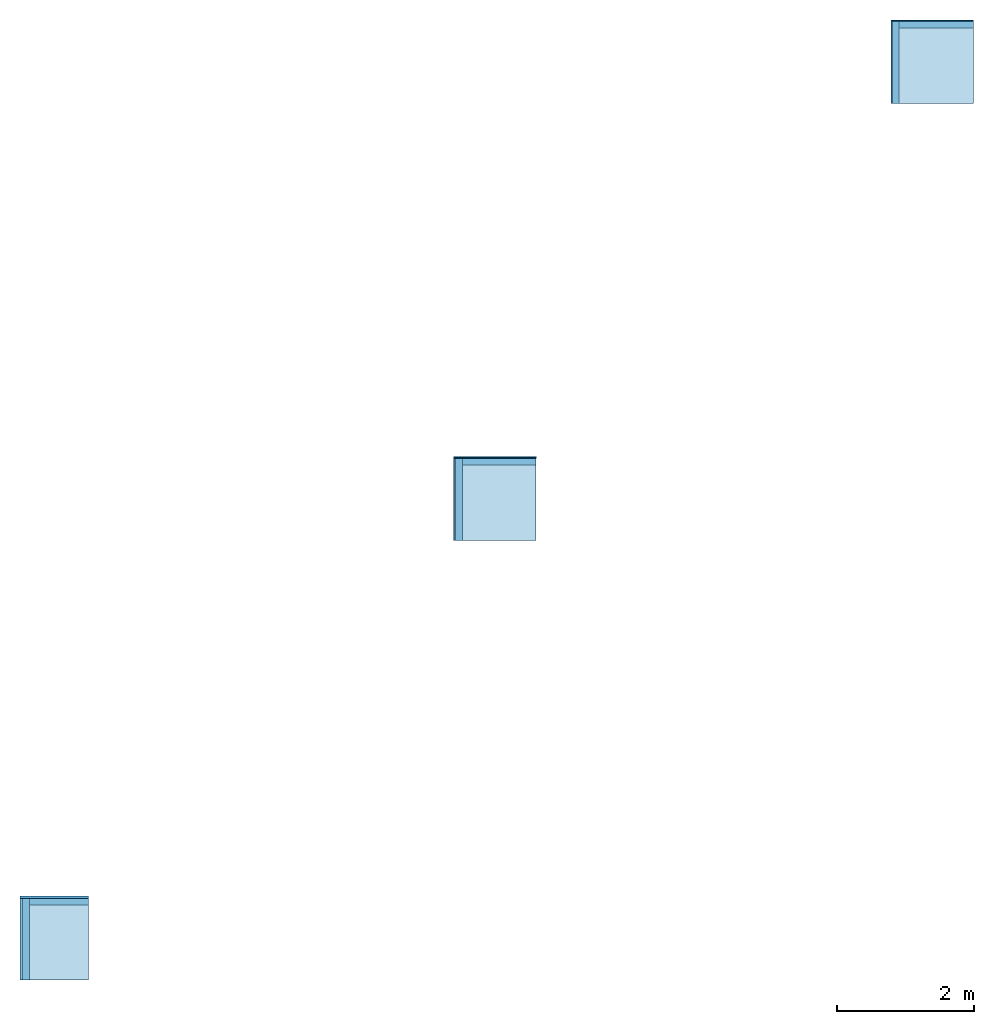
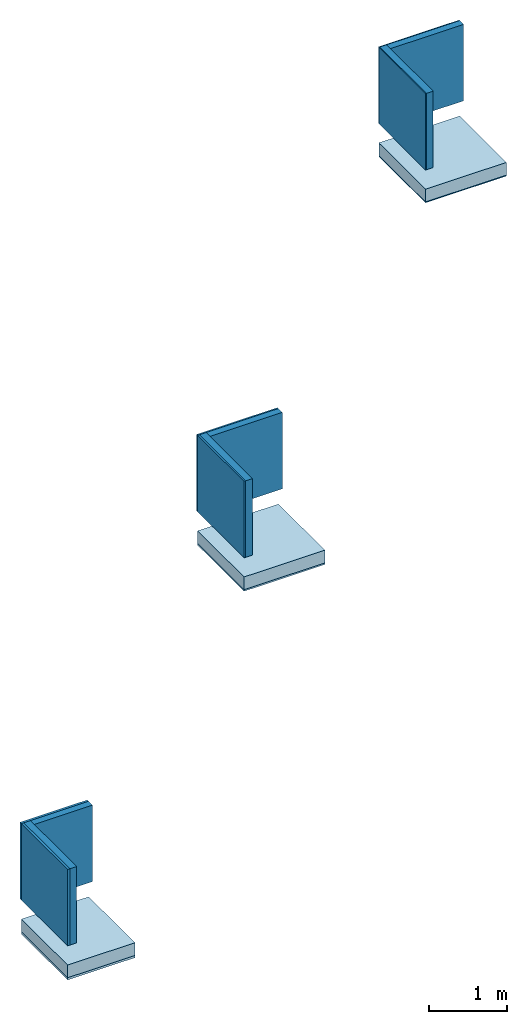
# One storey: 12 walls, 6 slabs.
"""IFC2X3 building model written with IfcOpenShell, lengths in millimetres."""

from ifc_helpers import new_model, entity, si_unit, converted_unit, derived_unit, direction, frame, frame_2d, origin, origin_2d_with_axis, place, context, subcontext, project, spatial, rectangle, extrude, material, layer, layer_set, layer_usage, type_object, element, save


model = new_model("IFC2X3")

# Units and contexts
model_context = context("Model", 3, precision=0.01, world=origin(), true_north=direction((6.12303176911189e-17, 1.0)))
context_of_model = context(None, 3, precision=0.01, world=origin(), true_north=direction((6.12303176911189e-17, 1.0)))
body_context = subcontext(model_context, "Body", "Model", "MODEL_VIEW")
ifc_project = project(units=[si_unit("LENGTHUNIT", "METRE", prefix="MILLI"), si_unit("AREAUNIT", "SQUARE_METRE"), si_unit("VOLUMEUNIT", "CUBIC_METRE"), converted_unit("PLANEANGLEUNIT", "DEGREE", entity("IfcRatioMeasure", 0.0174532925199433), si_unit("PLANEANGLEUNIT", "RADIAN"), dimensions=[0, 0, 0, 0, 0, 0, 0]), si_unit("MASSUNIT", "GRAM", prefix="KILO"), derived_unit("MASSDENSITYUNIT", [(si_unit("MASSUNIT", "GRAM", prefix="KILO"), 1), (si_unit("LENGTHUNIT", "METRE"), -3)]), derived_unit("MOMENTOFINERTIAUNIT", [(si_unit("LENGTHUNIT", "METRE"), 4)]), si_unit("TIMEUNIT", "SECOND"), si_unit("FREQUENCYUNIT", "HERTZ"), si_unit("THERMODYNAMICTEMPERATUREUNIT", "DEGREE_CELSIUS"), derived_unit("THERMALTRANSMITTANCEUNIT", [(si_unit("MASSUNIT", "GRAM", prefix="KILO"), 1), (si_unit("THERMODYNAMICTEMPERATUREUNIT", "KELVIN"), -1), (si_unit("TIMEUNIT", "SECOND"), -3)]), derived_unit("VOLUMETRICFLOWRATEUNIT", [(si_unit("LENGTHUNIT", "METRE"), 3), (si_unit("TIMEUNIT", "SECOND"), -1)]), si_unit("ELECTRICCURRENTUNIT", "AMPERE"), si_unit("ELECTRICVOLTAGEUNIT", "VOLT"), si_unit("POWERUNIT", "WATT"), si_unit("FORCEUNIT", "NEWTON", prefix="KILO"), si_unit("ILLUMINANCEUNIT", "LUX"), si_unit("LUMINOUSFLUXUNIT", "LUMEN"), si_unit("LUMINOUSINTENSITYUNIT", "CANDELA"), derived_unit("USERDEFINED", [(si_unit("MASSUNIT", "GRAM", prefix="KILO"), -1), (si_unit("LENGTHUNIT", "METRE"), -2), (si_unit("TIMEUNIT", "SECOND"), 3), (si_unit("LUMINOUSFLUXUNIT", "LUMEN"), 1)]), derived_unit("LINEARVELOCITYUNIT", [(si_unit("LENGTHUNIT", "METRE"), 1), (si_unit("TIMEUNIT", "SECOND"), -1)]), si_unit("PRESSUREUNIT", "PASCAL"), derived_unit("USERDEFINED", [(si_unit("LENGTHUNIT", "METRE"), -2), (si_unit("MASSUNIT", "GRAM", prefix="KILO"), 1), (si_unit("TIMEUNIT", "SECOND"), -2)]), derived_unit("LINEARFORCEUNIT", [(si_unit("MASSUNIT", "GRAM", prefix="KILO"), 1), (si_unit("LENGTHUNIT", "METRE"), 1), (si_unit("TIMEUNIT", "SECOND"), -2), (si_unit("LENGTHUNIT", "METRE"), -1)]), derived_unit("PLANARFORCEUNIT", [(si_unit("MASSUNIT", "GRAM", prefix="KILO"), 1), (si_unit("LENGTHUNIT", "METRE"), 1), (si_unit("TIMEUNIT", "SECOND"), -2), (si_unit("LENGTHUNIT", "METRE"), -2)])], contexts=[model_context, context_of_model])

# Site, building, storey
site_placement = place(None, origin())
site = spatial("IfcSite", under=ifc_project, at=site_placement, Name="Default", CompositionType="ELEMENT")
building_placement = place(site_placement, origin())
building = spatial("IfcBuilding", under=site, at=building_placement, CompositionType="ELEMENT")
storey_placement = place(building_placement, origin())
storey = spatial("IfcBuildingStorey", under=building, at=storey_placement, Name="00 begane grond", CompositionType="ELEMENT", Elevation=-2.77069864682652e-11)

# Slabs
ifc_material_1 = material(Name="Heraklith A2 afbouwpaneel - Houtwollaag - 1200x600mm")
ifc_layer_1 = layer(ifc_material_1, 15.0)
ifc_layer_set_1 = layer_set([ifc_layer_1], Name="Floor:NLRS_23_FL_Heraklith A2  afbouwpaneel 15x1200x600mm")
ifc_layer_usage_1 = layer_usage(ifc_layer_set_1, "AXIS3", "POSITIVE", 0.0)
slab_type_1 = type_object("IfcSlabType", Name="Floor:NLRS_23_FL_Heraklith A2  afbouwpaneel 15x1200x600mm", PredefinedType="FLOOR", material=ifc_layer_set_1)
slab_1_placement = place(storey_placement, origin())
element("IfcSlab", 1, at=slab_1_placement, inside=storey, type_object=slab_type_1, material=ifc_layer_usage_1, Name="Floor:NLRS_23_FL_Heraklith A2  afbouwpaneel 15x1200x600mm", ObjectType="Floor:NLRS_23_FL_Heraklith A2  afbouwpaneel 15x1200x600mm", PredefinedType="FLOOR", context=body_context, shape_type="SweptSolid", body=[
    extrude(rectangle(XDim=1200.0, YDim=1200.0, at=frame_2d((2.1600499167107e-12, 2.1600499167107e-12), x_axis=(1.0, 0.0))), frame((13327.9220613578, 13327.9220613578, -500.0), z_axis=(0.0, 0.0, -1.0), x_axis=(0.0, 1.0, 0.0)), (0.0, 0.0, 1.0), 15.0),
])
ifc_layer_2 = layer(ifc_material_1, 25.0)
ifc_layer_set_2 = layer_set([ifc_layer_2], Name="Floor:NLRS_23_FL_Heraklith A2  afbouwpaneel 25x1200x600mm")
ifc_layer_usage_2 = layer_usage(ifc_layer_set_2, "AXIS3", "POSITIVE", 0.0)
slab_type_2 = type_object("IfcSlabType", Name="Floor:NLRS_23_FL_Heraklith A2  afbouwpaneel 25x1200x600mm", PredefinedType="FLOOR", material=ifc_layer_set_2)
slab_2_placement = place(storey_placement, origin())
element("IfcSlab", 2, at=slab_2_placement, inside=storey, type_object=slab_type_2, material=ifc_layer_usage_2, Name="Floor:NLRS_23_FL_Heraklith A2  afbouwpaneel 25x1200x600mm", ObjectType="Floor:NLRS_23_FL_Heraklith A2  afbouwpaneel 25x1200x600mm", PredefinedType="FLOOR", context=body_context, shape_type="SweptSolid", body=[
    extrude(rectangle(XDim=1195.0, YDim=1200.0, at=origin_2d_with_axis()), frame((6958.9610306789, 6961.46103067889, -500.0), z_axis=(0.0, 0.0, -1.0), x_axis=(0.0, 1.0, 0.0)), (0.0, 0.0, 1.0), 25.0),
])
ifc_material_2 = material(Name="Heraklith A2 afbouwpaneel - Houtwollaag - 1000x600mm")
ifc_layer_3 = layer(ifc_material_2, 35.0)
ifc_layer_set_3 = layer_set([ifc_layer_3], Name="Floor:NLRS_23_FL_Heraklith A2  afbouwpaneel 35x1000x600mm")
ifc_layer_usage_3 = layer_usage(ifc_layer_set_3, "AXIS3", "POSITIVE", 0.0)
slab_type_3 = type_object("IfcSlabType", Name="Floor:NLRS_23_FL_Heraklith A2  afbouwpaneel 35x1000x600mm", PredefinedType="FLOOR", material=ifc_layer_set_3)
slab_3_placement = place(storey_placement, origin())
element("IfcSlab", 3, at=slab_3_placement, inside=storey, type_object=slab_type_3, material=ifc_layer_usage_3, Name="Floor:NLRS_23_FL_Heraklith A2  afbouwpaneel 35x1000x600mm", ObjectType="Floor:NLRS_23_FL_Heraklith A2  afbouwpaneel 35x1000x600mm", PredefinedType="FLOOR", context=body_context, shape_type="SweptSolid", body=[
    extrude(rectangle(XDim=1190.0, YDim=1000.0, at=origin_2d_with_axis()), frame((542.142117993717, 557.075472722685, -500.0), z_axis=(0.0, 0.0, -1.0), x_axis=(0.0, 1.0, 0.0)), (0.0, 0.0, 1.0), 35.0),
])
ifc_material_3 = material(Name="Concrete, Precast Panels")
ifc_layer_4 = layer(ifc_material_3, 200.0)
ifc_layer_set_4 = layer_set([ifc_layer_4], Name="Floor:Generic 200mm")
ifc_layer_usage_4 = layer_usage(ifc_layer_set_4, "AXIS3", "POSITIVE", 0.0)
slab_type_4 = type_object("IfcSlabType", Name="Floor:Generic 200mm", PredefinedType="FLOOR", material=ifc_layer_set_4)
slab_4_placement = place(storey_placement, origin())
element("IfcSlab", 4, at=slab_4_placement, inside=storey, type_object=slab_type_4, material=ifc_layer_usage_4, Name="Floor:Generic 200mm", ObjectType="Floor:Generic 200mm", PredefinedType="FLOOR", context=body_context, shape_type="SweptSolid", body=[
    extrude(rectangle(XDim=1200.0, YDim=1200.0, at=frame_2d((2.1600499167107e-12, -1.08002495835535e-12), x_axis=(1.0, 0.0))), frame((13327.9220613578, 13327.9220613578, -300.0), z_axis=(0.0, 0.0, -1.0), x_axis=(0.0, 1.0, 0.0)), (0.0, 0.0, 1.0), 200.0),
])
ifc_layer_usage_5 = layer_usage(ifc_layer_set_4, "AXIS3", "POSITIVE", 0.0)
slab_type_5 = type_object("IfcSlabType", Name="Floor:Generic 200mm", PredefinedType="FLOOR", material=ifc_layer_set_4)
slab_5_placement = place(storey_placement, origin())
element("IfcSlab", 5, at=slab_5_placement, inside=storey, type_object=slab_type_5, material=ifc_layer_usage_5, Name="Floor:Generic 200mm", ObjectType="Floor:Generic 200mm", PredefinedType="FLOOR", context=body_context, shape_type="SweptSolid", body=[
    extrude(rectangle(XDim=1195.0, YDim=1200.0, at=origin_2d_with_axis()), frame((6958.9610306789, 6961.4610306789, -300.0), z_axis=(0.0, 0.0, -1.0), x_axis=(0.0, 1.0, 0.0)), (0.0, 0.0, 1.0), 200.0),
])
ifc_layer_usage_6 = layer_usage(ifc_layer_set_4, "AXIS3", "POSITIVE", 0.0)
slab_type_6 = type_object("IfcSlabType", Name="Floor:Generic 200mm", PredefinedType="FLOOR", material=ifc_layer_set_4)
slab_6_placement = place(storey_placement, origin())
element("IfcSlab", 6, at=slab_6_placement, inside=storey, type_object=slab_type_6, material=ifc_layer_usage_6, Name="Floor:Generic 200mm", ObjectType="Floor:Generic 200mm", PredefinedType="FLOOR", context=body_context, shape_type="SweptSolid", body=[
    extrude(rectangle(XDim=1190.0, YDim=1000.0, at=origin_2d_with_axis()), frame((542.142117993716, 557.075472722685, -300.0), z_axis=(0.0, 0.0, -1.0), x_axis=(0.0, 1.0, 0.0)), (0.0, 0.0, 1.0), 200.0),
])

# Walls
ifc_layer_5 = layer(ifc_material_1, 15.0)
ifc_layer_set_5 = layer_set([ifc_layer_5], Name="Basic Wall:NLRS_41_WA_Heraklith A2  afbouwpaneel 15x1200x600mm")
ifc_layer_usage_7 = layer_usage(ifc_layer_set_5, "AXIS2", "NEGATIVE", 7.5)
wall_type_1 = type_object("IfcWallType", Name="Basic Wall:NLRS_41_WA_Heraklith A2  afbouwpaneel 15x1200x600mm", PredefinedType="STANDARD", material=ifc_layer_set_5)
wall_1_placement = place(storey_placement, frame((13927.9220613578, 13935.4220613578, 0.0), z_axis=(0.0, 0.0, 1.0), x_axis=(-1.0, 0.0, 0.0)))
element("IfcWallStandardCase", 7, at=wall_1_placement, inside=storey, type_object=wall_type_1, material=ifc_layer_usage_7, Name="Basic Wall:NLRS_41_WA_Heraklith A2  afbouwpaneel 15x1200x600mm", ObjectType="Basic Wall:NLRS_41_WA_Heraklith A2  afbouwpaneel 15x1200x600mm", context=body_context, shape_type="SweptSolid", body=[
    extrude(rectangle(XDim=1200.0, YDim=15.0000000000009, at=frame_2d((599.999999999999, -1.35447209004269e-13), x_axis=(-1.0, 0.0))), origin(), (0.0, 0.0, 1.0), 1200.00000000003),
])
ifc_layer_6 = layer(ifc_material_1, 15.0)
ifc_layer_set_6 = layer_set([ifc_layer_6], Name="Basic Wall:NLRS_42_WA_Heraklith A2  afbouwpaneel 15x1200x600mm")
ifc_layer_usage_8 = layer_usage(ifc_layer_set_6, "AXIS2", "NEGATIVE", 7.5)
wall_type_2 = type_object("IfcWallType", Name="Basic Wall:NLRS_42_WA_Heraklith A2  afbouwpaneel 15x1200x600mm", PredefinedType="STANDARD", material=ifc_layer_set_6)
wall_2_placement = place(storey_placement, frame((12735.4220613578, 12727.9220613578, 0.0), z_axis=(0.0, 0.0, 1.0), x_axis=(0.0, 1.0, 0.0)))
element("IfcWallStandardCase", 8, at=wall_2_placement, inside=storey, type_object=wall_type_2, material=ifc_layer_usage_8, Name="Basic Wall:NLRS_42_WA_Heraklith A2  afbouwpaneel 15x1200x600mm", ObjectType="Basic Wall:NLRS_42_WA_Heraklith A2  afbouwpaneel 15x1200x600mm", context=body_context, shape_type="SweptSolid", body=[
    extrude(rectangle(XDim=1200.0, YDim=15.0000000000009, at=frame_2d((599.999999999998, -1.08357767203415e-13), x_axis=(-1.0, 0.0))), origin(), (0.0, 0.0, 1.0), 1200.00000000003),
])
ifc_layer_7 = layer(ifc_material_1, 25.0)
ifc_layer_set_7 = layer_set([ifc_layer_7], Name="Basic Wall:NLRS_41_WA_Heraklith A2  afbouwpaneel 25x1200x600mm")
ifc_layer_usage_9 = layer_usage(ifc_layer_set_7, "AXIS2", "NEGATIVE", 12.5)
wall_type_3 = type_object("IfcWallType", Name="Basic Wall:NLRS_41_WA_Heraklith A2  afbouwpaneel 25x1200x600mm", PredefinedType="STANDARD", material=ifc_layer_set_7)
wall_3_placement = place(storey_placement, frame((7558.9610306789, 7571.46103067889, 0.0), z_axis=(0.0, 0.0, 1.0), x_axis=(-1.0, 0.0, 0.0)))
element("IfcWallStandardCase", 9, at=wall_3_placement, inside=storey, type_object=wall_type_3, material=ifc_layer_usage_9, Name="Basic Wall:NLRS_41_WA_Heraklith A2  afbouwpaneel 25x1200x600mm", ObjectType="Basic Wall:NLRS_41_WA_Heraklith A2  afbouwpaneel 25x1200x600mm", context=body_context, shape_type="SweptSolid", body=[
    extrude(rectangle(XDim=1200.0, YDim=25.0000000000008, at=frame_2d((600.0, -1.35003119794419e-13), x_axis=(-1.0, 0.0))), origin(), (0.0, 0.0, 1.0), 1200.00000000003),
])
ifc_layer_8 = layer(ifc_material_1, 25.0)
ifc_layer_set_8 = layer_set([ifc_layer_8], Name="Basic Wall:NLRS_42_WA_Heraklith A2  afbouwpaneel 25x1200x600mm")
ifc_layer_usage_10 = layer_usage(ifc_layer_set_8, "AXIS2", "NEGATIVE", 12.5)
wall_type_4 = type_object("IfcWallType", Name="Basic Wall:NLRS_42_WA_Heraklith A2  afbouwpaneel 25x1200x600mm", PredefinedType="STANDARD", material=ifc_layer_set_8)
wall_4_placement = place(storey_placement, frame((6371.4610306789, 6363.9610306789, 0.0), z_axis=(0.0, 0.0, 1.0), x_axis=(0.0, 1.0, 0.0)))
element("IfcWallStandardCase", 10, at=wall_4_placement, inside=storey, type_object=wall_type_4, material=ifc_layer_usage_10, Name="Basic Wall:NLRS_42_WA_Heraklith A2  afbouwpaneel 25x1200x600mm", ObjectType="Basic Wall:NLRS_42_WA_Heraklith A2  afbouwpaneel 25x1200x600mm", context=body_context, shape_type="SweptSolid", body=[
    extrude(rectangle(XDim=1195.0, YDim=25.0000000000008, at=frame_2d((597.5, 4.2899017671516e-13), x_axis=(-1.0, 0.0))), origin(), (0.0, 0.0, 1.0), 1200.00000000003),
])
ifc_material_4 = material(Name="Heraklith A2 afbouwpaneel - Houtwollaag - 2000x600mm")
ifc_layer_9 = layer(ifc_material_4, 35.0)
ifc_layer_set_9 = layer_set([ifc_layer_9], Name="Basic Wall:NLRS_42_WA_Heraklith A2  afbouwpaneel 35x1000x600mm")
ifc_layer_usage_11 = layer_usage(ifc_layer_set_9, "AXIS2", "NEGATIVE", 17.5)
wall_type_5 = type_object("IfcWallType", Name="Basic Wall:NLRS_42_WA_Heraklith A2  afbouwpaneel 35x1000x600mm", PredefinedType="STANDARD", material=ifc_layer_set_9)
wall_5_placement = place(storey_placement, frame((59.6421179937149, -37.9245272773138, 0.0), z_axis=(0.0, 0.0, 1.0), x_axis=(0.0, 1.0, 0.0)))
element("IfcWallStandardCase", 11, at=wall_5_placement, inside=storey, type_object=wall_type_5, material=ifc_layer_usage_11, Name="Basic Wall:NLRS_42_WA_Heraklith A2  afbouwpaneel 35x1000x600mm", ObjectType="Basic Wall:NLRS_42_WA_Heraklith A2  afbouwpaneel 35x1000x600mm", context=body_context, shape_type="SweptSolid", body=[
    extrude(rectangle(XDim=1190.0, YDim=35.0, at=frame_2d((595.0, -1.77635683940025e-15), x_axis=(-1.0, 0.0))), origin(), (0.0, 0.0, 1.0), 1200.00000000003),
])
ifc_layer_10 = layer(ifc_material_2, 35.0)
ifc_layer_set_10 = layer_set([ifc_layer_10], Name="Basic Wall:NLRS_41_WA_Heraklith A2  afbouwpaneel 35x1000x600mm")
ifc_layer_usage_12 = layer_usage(ifc_layer_set_10, "AXIS2", "NEGATIVE", 17.5)
wall_type_6 = type_object("IfcWallType", Name="Basic Wall:NLRS_41_WA_Heraklith A2  afbouwpaneel 35x1000x600mm", PredefinedType="STANDARD", material=ifc_layer_set_10)
wall_6_placement = place(storey_placement, frame((1042.14211799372, 1169.57547272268, 0.0), z_axis=(0.0, 0.0, 1.0), x_axis=(-1.0, 0.0, 0.0)))
element("IfcWallStandardCase", 12, at=wall_6_placement, inside=storey, type_object=wall_type_6, material=ifc_layer_usage_12, Name="Basic Wall:NLRS_41_WA_Heraklith A2  afbouwpaneel 35x1000x600mm", ObjectType="Basic Wall:NLRS_41_WA_Heraklith A2  afbouwpaneel 35x1000x600mm", context=body_context, shape_type="SweptSolid", body=[
    extrude(rectangle(XDim=1000.0, YDim=34.9999999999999, at=frame_2d((500.0, 1.24344978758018e-14), x_axis=(-1.0, 0.0))), origin(), (0.0, 0.0, 1.0), 1200.00000000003),
])
ifc_layer_11 = layer(ifc_material_3, 100.0)
ifc_layer_set_11 = layer_set([ifc_layer_11], Name="Basic Wall:Generic_100mm")
ifc_layer_usage_13 = layer_usage(ifc_layer_set_11, "AXIS2", "NEGATIVE", 50.0)
wall_type_7 = type_object("IfcWallType", Name="Basic Wall:Generic_100mm", PredefinedType="STANDARD", material=ifc_layer_set_11)
wall_7_placement = place(storey_placement, frame((12792.9220613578, 12727.9220613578, 0.0), z_axis=(0.0, 0.0, 1.0), x_axis=(0.0, 1.0, 0.0)))
element("IfcWallStandardCase", 13, at=wall_7_placement, inside=storey, type_object=wall_type_7, material=ifc_layer_usage_13, Name="Basic Wall:Generic_100mm", ObjectType="Basic Wall:Generic_100mm", context=body_context, shape_type="SweptSolid", body=[
    extrude(rectangle(XDim=1200.0, YDim=99.9999999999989, at=frame_2d((599.999999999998, -1.10134124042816e-13), x_axis=(-1.0, 0.0))), origin(), (0.0, 0.0, 1.0), 1200.00000000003),
])
ifc_layer_usage_14 = layer_usage(ifc_layer_set_11, "AXIS2", "POSITIVE", -50.0)
wall_8_placement = place(storey_placement, frame((13927.9220613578, 13877.9220613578, 0.0), z_axis=(0.0, 0.0, 1.0), x_axis=(-1.0, 0.0, 0.0)))
element("IfcWallStandardCase", 14, at=wall_8_placement, inside=storey, type_object=wall_type_7, material=ifc_layer_usage_14, Name="Basic Wall:Generic_100mm", ObjectType="Basic Wall:Generic_100mm", context=body_context, shape_type="SweptSolid", body=[
    extrude(rectangle(XDim=1085.0, YDim=99.9999999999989, at=frame_2d((542.499999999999, -6.3948846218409e-14), x_axis=(-1.0, 0.0))), origin(), (0.0, 0.0, 1.0), 1200.00000000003),
])
ifc_layer_usage_15 = layer_usage(ifc_layer_set_11, "AXIS2", "NEGATIVE", 50.0)
wall_9_placement = place(storey_placement, frame((6433.9610306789, 6363.9610306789, 0.0), z_axis=(0.0, 0.0, 1.0), x_axis=(0.0, 1.0, 0.0)))
element("IfcWallStandardCase", 15, at=wall_9_placement, inside=storey, type_object=wall_type_7, material=ifc_layer_usage_15, Name="Basic Wall:Generic_100mm", ObjectType="Basic Wall:Generic_100mm", context=body_context, shape_type="SweptSolid", body=[
    extrude(rectangle(XDim=1195.0, YDim=100.000000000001, at=frame_2d((597.500000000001, 3.19744231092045e-14), x_axis=(-1.0, 0.0))), origin(), (0.0, 0.0, 1.0), 1200.00000000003),
])
ifc_layer_usage_16 = layer_usage(ifc_layer_set_11, "AXIS2", "POSITIVE", -50.0)
wall_10_placement = place(storey_placement, frame((7558.9610306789, 7508.96103067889, 0.0), z_axis=(0.0, 0.0, 1.0), x_axis=(-1.0, 0.0, 0.0)))
element("IfcWallStandardCase", 16, at=wall_10_placement, inside=storey, type_object=wall_type_7, material=ifc_layer_usage_16, Name="Basic Wall:Generic_100mm", ObjectType="Basic Wall:Generic_100mm", context=body_context, shape_type="SweptSolid", body=[
    extrude(rectangle(XDim=1075.0, YDim=99.9999999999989, at=frame_2d((537.500000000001, -6.75015598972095e-14), x_axis=(-1.0, 0.0))), origin(), (0.0, 0.0, 1.0), 1200.00000000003),
])
ifc_layer_usage_17 = layer_usage(ifc_layer_set_11, "AXIS2", "NEGATIVE", 50.0)
wall_11_placement = place(storey_placement, frame((127.142117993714, -37.9245272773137, 0.0), z_axis=(0.0, 0.0, 1.0), x_axis=(0.0, 1.0, 0.0)))
element("IfcWallStandardCase", 17, at=wall_11_placement, inside=storey, type_object=wall_type_7, material=ifc_layer_usage_17, Name="Basic Wall:Generic_100mm", ObjectType="Basic Wall:Generic_100mm", context=body_context, shape_type="SweptSolid", body=[
    extrude(rectangle(XDim=1190.0, YDim=100.0, at=frame_2d((594.999999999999, -3.5527136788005e-15), x_axis=(-1.0, 0.0))), origin(), (0.0, 0.0, 1.0), 1200.00000000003),
])
ifc_layer_usage_18 = layer_usage(ifc_layer_set_11, "AXIS2", "POSITIVE", -50.0)
wall_12_placement = place(storey_placement, frame((1042.14211799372, 1102.07547272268, 0.0), z_axis=(0.0, 0.0, 1.0), x_axis=(-1.0, 0.0, 0.0)))
element("IfcWallStandardCase", 18, at=wall_12_placement, inside=storey, type_object=wall_type_7, material=ifc_layer_usage_18, Name="Basic Wall:Generic_100mm", ObjectType="Basic Wall:Generic_100mm", context=body_context, shape_type="SweptSolid", body=[
    extrude(rectangle(XDim=865.000000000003, YDim=100.0, at=frame_2d((432.500000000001, 0.0), x_axis=(-1.0, 0.0))), origin(), (0.0, 0.0, 1.0), 1200.00000000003),
])

save(model, "model.ifc")
